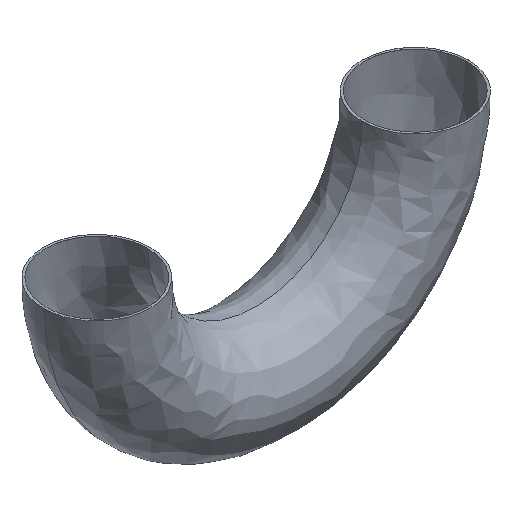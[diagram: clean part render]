
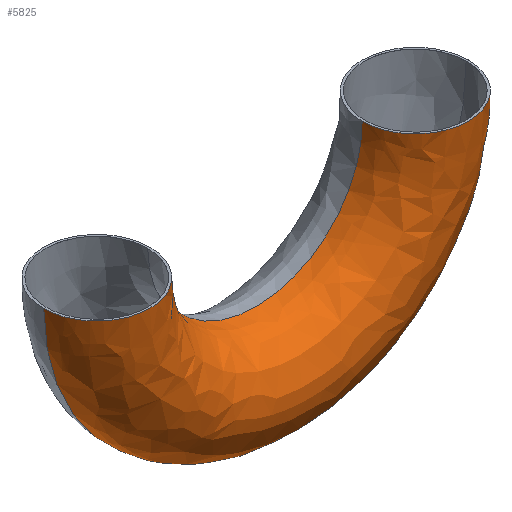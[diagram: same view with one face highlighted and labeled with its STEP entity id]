
A CAD part, isometric view. The second image highlights one B-rep face of the part: STEP entity #5825.
In plain terms, the highlighted free-form (B-spline) face has degree [3, 3] with [4, 4] control points.
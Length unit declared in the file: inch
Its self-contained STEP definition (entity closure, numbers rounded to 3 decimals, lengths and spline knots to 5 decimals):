
#116 = ORIENTED_EDGE ( 'NONE', *, *, #2621, .T. ) ;
#200 = ORIENTED_EDGE ( 'NONE', *, *, #4973, .F. ) ;
#234 = DIRECTION ( 'NONE',  ( 0., 0., -1. ) ) ;
#318 = AXIS2_PLACEMENT_3D ( 'NONE', #1480, #4643, #1936 ) ;
#378 = CARTESIAN_POINT ( 'NONE',  ( -13.89211, -4., -16.10693 ) ) ;
#461 = DIRECTION ( 'NONE',  ( -1., 0., -0.013 ) ) ;
#483 = CIRCLE ( 'NONE', #2970, 2. ) ;
#832 = CARTESIAN_POINT ( 'NONE',  ( 2., -4., 0. ) ) ;
#888 =( BOUNDED_SURFACE ( )  B_SPLINE_SURFACE ( 3, 3, ( 
 ( #1263, #4733, #1724, #4888 ),
 ( #2174, #5352, #2630, #5798 ),
 ( #3092, #378, #3550, #832 ),
 ( #4013, #1282, #4458, #1742 ) ),
 .UNSPECIFIED., .F., .F., .T. ) 
 B_SPLINE_SURFACE_WITH_KNOTS ( ( 4, 4 ),
 ( 4, 4 ),
 ( 0., 1. ),
 ( 0., 1. ),
 .UNSPECIFIED. ) 
 GEOMETRIC_REPRESENTATION_ITEM ( )  RATIONAL_B_SPLINE_SURFACE ( (
 ( 1., 0.333, 0.333, 1.),
 ( 0.333, 0.111, 0.111, 0.333),
 ( 0.333, 0.111, 0.111, 0.333),
 ( 1., 0.333, 0.333, 1.) ) ) 
 REPRESENTATION_ITEM ( '' )  SURFACE ( )  );
#1144 = CARTESIAN_POINT ( 'NONE',  ( 2., 0., 0. ) ) ;
#1243 = CIRCLE ( 'NONE', #1899, 4.00012 ) ;
#1263 = CARTESIAN_POINT ( 'NONE',  ( -9.99952, 0., -0.10741 ) ) ;
#1282 = CARTESIAN_POINT ( 'NONE',  ( -13.89211, 0., -16.10693 ) ) ;
#1480 = CARTESIAN_POINT ( 'NONE',  ( -5.99976, 0., -0.05371 ) ) ;
#1514 = CARTESIAN_POINT ( 'NONE',  ( -13.99952, 0., -0.10741 ) ) ;
#1599 = VERTEX_POINT ( 'NONE', #4216 ) ;
#1684 = CIRCLE ( 'NONE', #318, 7.99994 ) ;
#1724 = CARTESIAN_POINT ( 'NONE',  ( -1.89259, 0., -7.99952 ) ) ;
#1742 = CARTESIAN_POINT ( 'NONE',  ( 2., 0., 0. ) ) ;
#1899 = AXIS2_PLACEMENT_3D ( 'NONE', #5879, #3173, #461 ) ;
#1936 = DIRECTION ( 'NONE',  ( -1., 0., -0.007 ) ) ;
#2028 = VERTEX_POINT ( 'NONE', #1514 ) ;
#2039 = DIRECTION ( 'NONE',  ( 0., 0., 1. ) ) ;
#2174 = CARTESIAN_POINT ( 'NONE',  ( -9.99952, -4., -0.10741 ) ) ;
#2599 = VERTEX_POINT ( 'NONE', #1144 ) ;
#2621 = EDGE_CURVE ( 'NONE', #2028, #2599, #1684, .T. ) ;
#2630 = CARTESIAN_POINT ( 'NONE',  ( -1.89259, -4., -7.99952 ) ) ;
#2680 = CARTESIAN_POINT ( 'NONE',  ( -9.99952, 0., -0.10741 ) ) ;
#2794 = EDGE_LOOP ( 'NONE', ( #200, #3591, #116, #3227 ) ) ;
#2947 = CARTESIAN_POINT ( 'NONE',  ( -11.99952, 0., -0.10741 ) ) ;
#2970 = AXIS2_PLACEMENT_3D ( 'NONE', #2947, #234, #3408 ) ;
#3092 = CARTESIAN_POINT ( 'NONE',  ( -13.99952, -4., -0.10741 ) ) ;
#3173 = DIRECTION ( 'NONE',  ( 0., -1., 0. ) ) ;
#3227 = ORIENTED_EDGE ( 'NONE', *, *, #3352, .F. ) ;
#3352 = EDGE_CURVE ( 'NONE', #1599, #2599, #5166, .T. ) ;
#3408 = DIRECTION ( 'NONE',  ( -1., 0., 0. ) ) ;
#3428 = EDGE_CURVE ( 'NONE', #3751, #2028, #483, .T. ) ;
#3522 = FACE_OUTER_BOUND ( 'NONE', #2794, .T. ) ;
#3550 = CARTESIAN_POINT ( 'NONE',  ( 2.10741, -4., -15.99952 ) ) ;
#3591 = ORIENTED_EDGE ( 'NONE', *, *, #3428, .T. ) ;
#3751 = VERTEX_POINT ( 'NONE', #2680 ) ;
#4013 = CARTESIAN_POINT ( 'NONE',  ( -13.99952, 0., -0.10741 ) ) ;
#4041 = AXIS2_PLACEMENT_3D ( 'NONE', #4746, #2039, #5214 ) ;
#4216 = CARTESIAN_POINT ( 'NONE',  ( -2., 0., 0. ) ) ;
#4458 = CARTESIAN_POINT ( 'NONE',  ( 2.10741, 0., -15.99952 ) ) ;
#4643 = DIRECTION ( 'NONE',  ( 0., -1., 0. ) ) ;
#4733 = CARTESIAN_POINT ( 'NONE',  ( -9.89211, 0., -8.10693 ) ) ;
#4746 = CARTESIAN_POINT ( 'NONE',  ( 0., 0., 0. ) ) ;
#4888 = CARTESIAN_POINT ( 'NONE',  ( -2., 0., 0. ) ) ;
#4973 = EDGE_CURVE ( 'NONE', #3751, #1599, #1243, .T. ) ;
#5166 = CIRCLE ( 'NONE', #4041, 2. ) ;
#5214 = DIRECTION ( 'NONE',  ( 1., 0., 0. ) ) ;
#5352 = CARTESIAN_POINT ( 'NONE',  ( -9.89211, -4., -8.10693 ) ) ;
#5798 = CARTESIAN_POINT ( 'NONE',  ( -2., -4., 0. ) ) ;
#5825 = ADVANCED_FACE ( 'NONE', ( #3522 ), #888, .T. ) ;
#5879 = CARTESIAN_POINT ( 'NONE',  ( -5.99976, 0., -0.05371 ) ) ;
